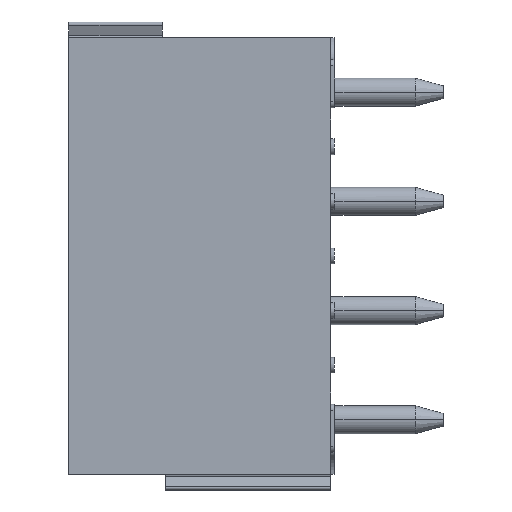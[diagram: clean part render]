
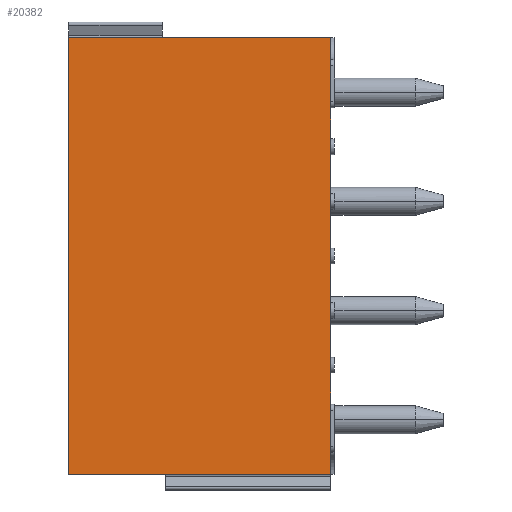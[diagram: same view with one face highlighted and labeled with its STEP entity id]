
A CAD part, left-side view. The second image highlights one B-rep face of the part: STEP entity #20382.
In plain terms, the highlighted planar face has unit normal (-1, 0, 0).
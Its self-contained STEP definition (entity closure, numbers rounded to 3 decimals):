
#548=DIRECTION('',(0.,0.,1.));
#549=VECTOR('',#548,5.25);
#550=CARTESIAN_POINT('',(0.,0.1,1.25));
#551=LINE('',#550,#549);
#552=DIRECTION('',(0.,0.,1.));
#553=VECTOR('',#552,3.5);
#554=CARTESIAN_POINT('',(0.,0.1,-2.25));
#555=LINE('',#554,#553);
#556=DIRECTION('',(0.,0.,1.));
#557=VECTOR('',#556,5.25);
#558=CARTESIAN_POINT('',(0.,0.1,-7.5));
#559=LINE('',#558,#557);
#560=DIRECTION('',(0.,-1.,0.));
#561=VECTOR('',#560,8.4);
#562=CARTESIAN_POINT('',(0.,8.5,-7.5));
#563=LINE('',#562,#561);
#564=DIRECTION('',(0.,1.,0.));
#565=VECTOR('',#564,8.4);
#566=CARTESIAN_POINT('',(0.,0.1,6.5));
#567=LINE('',#566,#565);
#710=DIRECTION('',(0.,0.,1.));
#711=VECTOR('',#710,14.);
#712=CARTESIAN_POINT('',(0.,8.5,-7.5));
#713=LINE('',#712,#711);
#17024=CARTESIAN_POINT('',(0.,8.5,-7.5));
#17025=VERTEX_POINT('',#17024);
#17026=CARTESIAN_POINT('',(0.,0.1,-7.5));
#17027=VERTEX_POINT('',#17026);
#17208=CARTESIAN_POINT('',(0.,0.1,-2.25));
#17209=VERTEX_POINT('',#17208);
#17218=CARTESIAN_POINT('',(0.,0.1,1.25));
#17219=VERTEX_POINT('',#17218);
#17228=CARTESIAN_POINT('',(0.,0.1,6.5));
#17229=VERTEX_POINT('',#17228);
#17274=CARTESIAN_POINT('',(0.,8.5,6.5));
#17275=VERTEX_POINT('',#17274);
#20368=CARTESIAN_POINT('',(0.,8.5,-7.5));
#20369=DIRECTION('',(-1.,0.,0.));
#20370=DIRECTION('',(0.,-1.,0.));
#20371=AXIS2_PLACEMENT_3D('',#20368,#20369,#20370);
#20372=PLANE('',#20371);
#20373=ORIENTED_EDGE('',*,*,#20022,.F.);
#20374=ORIENTED_EDGE('',*,*,#20010,.F.);
#20375=ORIENTED_EDGE('',*,*,#19998,.F.);
#20376=ORIENTED_EDGE('',*,*,#19779,.F.);
#20378=ORIENTED_EDGE('',*,*,#20377,.T.);
#20379=ORIENTED_EDGE('',*,*,#20060,.F.);
#20380=EDGE_LOOP('',(#20373,#20374,#20375,#20376,#20378,#20379));
#20381=FACE_OUTER_BOUND('',#20380,.F.);
#20382=ADVANCED_FACE('',(#20381),#20372,.T.);
#19779=EDGE_CURVE('',#17025,#17027,#563,.T.);
#19998=EDGE_CURVE('',#17027,#17209,#559,.T.);
#20010=EDGE_CURVE('',#17209,#17219,#555,.T.);
#20022=EDGE_CURVE('',#17219,#17229,#551,.T.);
#20060=EDGE_CURVE('',#17229,#17275,#567,.T.);
#20377=EDGE_CURVE('',#17025,#17275,#713,.T.);
